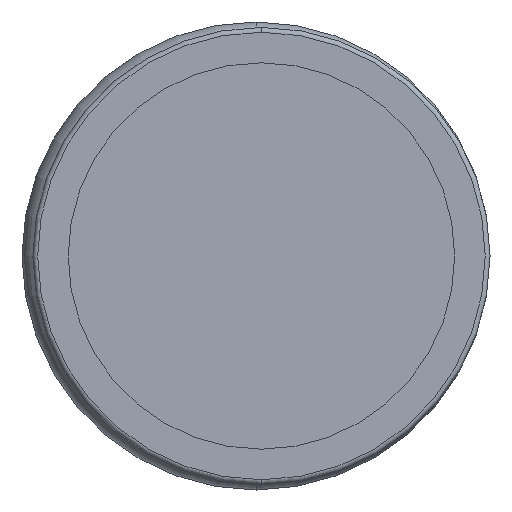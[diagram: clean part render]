
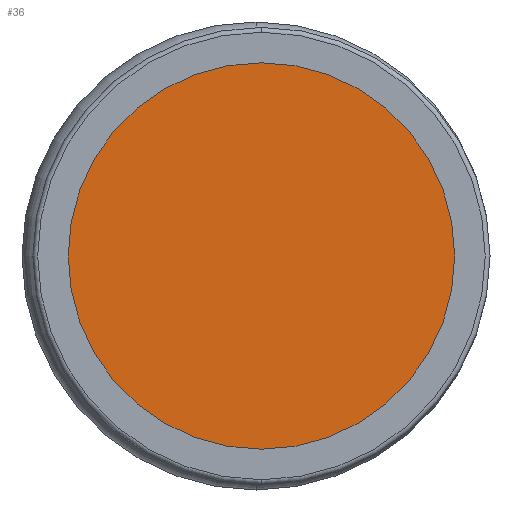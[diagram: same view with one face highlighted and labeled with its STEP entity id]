
A CAD part, front view. The second image highlights one B-rep face of the part: STEP entity #36.
In plain terms, the highlighted planar face has unit normal (0, -1, 0).
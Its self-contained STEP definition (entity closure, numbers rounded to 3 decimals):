
#36 = ADVANCED_FACE ( 'NONE', ( #936 ), #779, .T. ) ;
#48 = EDGE_CURVE ( 'NONE', #4419, #2705, #1241, .T. ) ;
#227 = ORIENTED_EDGE ( 'NONE', *, *, #48, .T. ) ;
#281 = ORIENTED_EDGE ( 'NONE', *, *, #3654, .T. ) ;
#409 = CARTESIAN_POINT ( 'NONE',  ( -9.5, 12., 0. ) ) ;
#412 = CARTESIAN_POINT ( 'NONE',  ( -9.5, 12., 0. ) ) ;
#779 = PLANE ( 'NONE',  #1729 ) ;
#796 = DIRECTION ( 'NONE',  ( 0., -1., 0. ) ) ;
#936 = FACE_OUTER_BOUND ( 'NONE', #2659, .T. ) ;
#1037 = AXIS2_PLACEMENT_3D ( 'NONE', #409, #796, #1958 ) ;
#1162 = AXIS2_PLACEMENT_3D ( 'NONE', #412, #1216, #4591 ) ;
#1216 = DIRECTION ( 'NONE',  ( 0., -1., 0. ) ) ;
#1241 = CIRCLE ( 'NONE', #1037, 8.031 ) ;
#1618 = CIRCLE ( 'NONE', #1162, 8.031 ) ;
#1729 = AXIS2_PLACEMENT_3D ( 'NONE', #3826, #4577, #4553 ) ;
#1958 = DIRECTION ( 'NONE',  ( 0., 0., -1. ) ) ;
#2659 = EDGE_LOOP ( 'NONE', ( #281, #227 ) ) ;
#2705 = VERTEX_POINT ( 'NONE', #4506 ) ;
#2906 = CARTESIAN_POINT ( 'NONE',  ( -9.5, 12., 8.031 ) ) ;
#3654 = EDGE_CURVE ( 'NONE', #2705, #4419, #1618, .T. ) ;
#3826 = CARTESIAN_POINT ( 'NONE',  ( -9.5, 12., 0. ) ) ;
#4419 = VERTEX_POINT ( 'NONE', #2906 ) ;
#4506 = CARTESIAN_POINT ( 'NONE',  ( -9.5, 12., -8.031 ) ) ;
#4553 = DIRECTION ( 'NONE',  ( 0., 0., -1. ) ) ;
#4577 = DIRECTION ( 'NONE',  ( 0., -1., 0. ) ) ;
#4591 = DIRECTION ( 'NONE',  ( 0., 0., -1. ) ) ;
